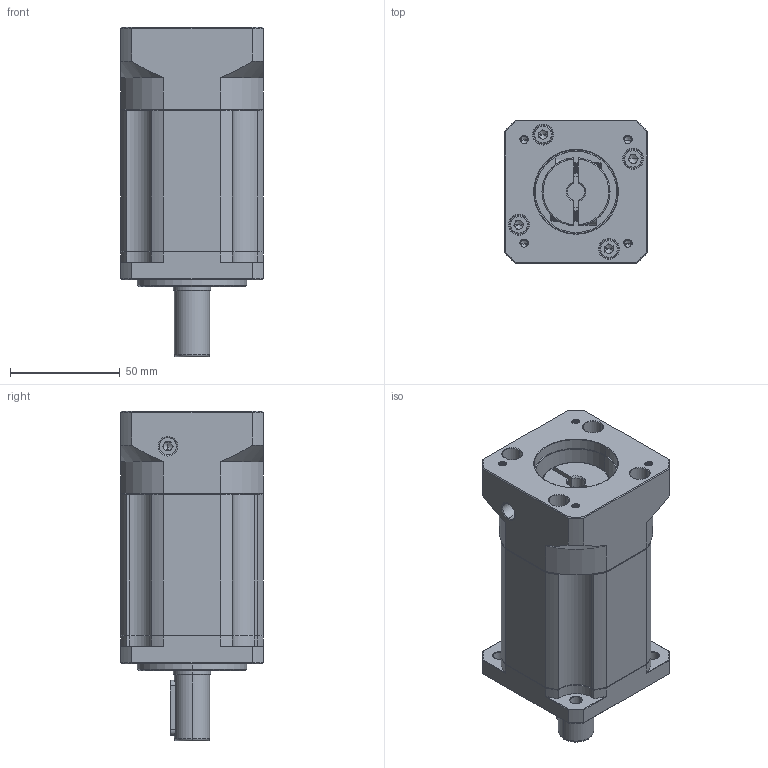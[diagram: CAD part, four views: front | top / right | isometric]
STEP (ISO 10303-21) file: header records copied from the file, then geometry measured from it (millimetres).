
FILE_DESCRIPTION (( 'STEP AP214' ), '1' );
FILE_NAME ('ZB60-D16-L3-8-38.1-47.14X47.14-M4.STEP', '2022-04-16T15:45:25', ( '' ), ( 'Microsoft' ), 'SwSTEP 2.0', 'SolidWorks 2016', '' );
FILE_SCHEMA (( 'AUTOMOTIVE_DESIGN' ));
Length unit declared in the file: millimetre
Products named in the file (1): ZB60-D16-L3-8-38.1-47.14X47.14-M4
Bounding box: 65 x 65 x 150 mm (x, y, z)
Volume: 396326.5 mm3; surface area: 62431.3 mm2
Topology: 6 solids, 6 shells, 1876 faces, 4981 edges, 3188 vertices
Faces by surface type: plane 879, cylinder 381, bspline 299, cone 283, torus 34
Entity records: 98911 total; most frequent: CARTESIAN_POINT 34084, ORIENTED_EDGE 9902, DIRECTION 8107, EDGE_CURVE 4951, VERTEX_POINT 3188, VECTOR 3013, LINE 3013, AXIS2_PLACEMENT_3D 2547
